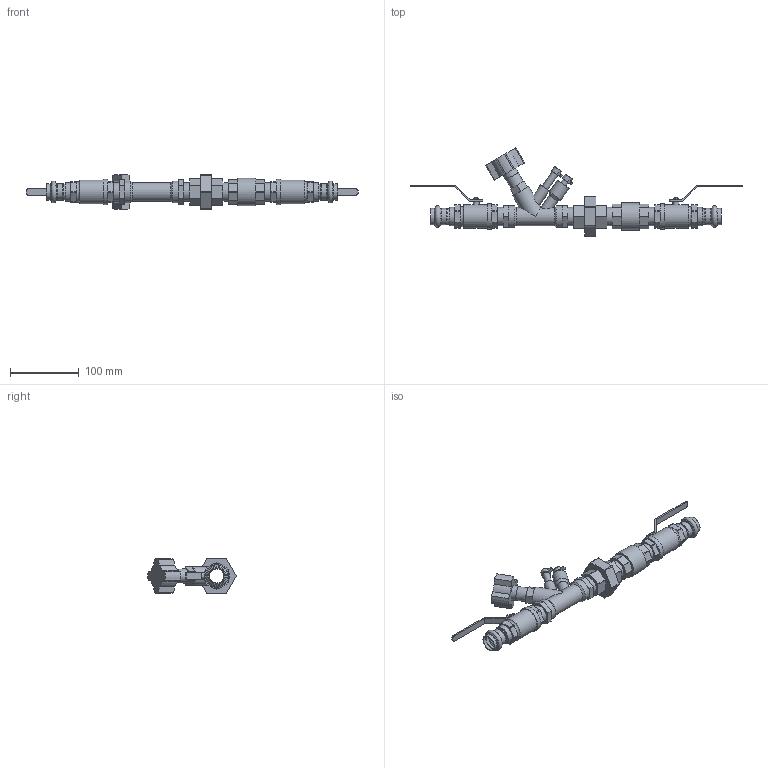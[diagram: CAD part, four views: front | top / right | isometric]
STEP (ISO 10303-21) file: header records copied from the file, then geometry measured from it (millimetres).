
FILE_DESCRIPTION(/* description */ ('VIC DOMESTIC WATER KIT FOR HYDRONIC BALANCING SERIES 7W9 (CPF)','CAx-IF Rec.Pracs.---Representation and Presentation of Product Manufacturing Information (PMI)---4.0---2014-10-13'),/* implementation_level */ '2;1');
FILE_NAME(/* name */ 'C:\Users\Vjadhav\AppData\Roaming\Autodesk\ApplicationPlugins\Victaulic.Temp\A633\Victaulic_Domestic Water Kit for Hydronic Balancing_Series 7W9 (CPF)_PRS_0.75 (20).stp',/* time_stamp */ '2021-08-10T10:25:50+06:00',/* author */ ('Vjadhav'),/* organization */ ('Victaulic'),/* preprocessor_version */ 'ST-DEVELOPER v17.2',/* originating_system */ 'Autodesk Inventor 2019',/* authorisation */ '');
FILE_SCHEMA (('AP242_MANAGED_MODEL_BASED_3D_ENGINEERING_MIM_LF { 1 0 10303 442 1 1 4 }'));
Length unit declared in the file: inch
Products named in the file (7): 7W9_PRS-0.75; Union_BR_386-0.75; Check_Valve_4133-0.75; Nipple_BR_386_Prs-0.75; 722L_Prs-0.75; P596-0.75x0.75; 790-0.75
Assembly tree (11 placements, depth 2):
  7W9_PRS-0.75
    Union_BR_386-0.75
    Nipple_BR_386_Prs-0.75  x4
    722L_Prs-0.75  x2
    P596-0.75x0.75  x2
    Check_Valve_4133-0.75
    790-0.75
Bounding box: 482.6 x 128.58 x 50.62 mm (x, y, z)
Volume: 288083.4 mm3; surface area: 131254.7 mm2
Topology: 11 solids, 11 shells, 393 faces, 1067 edges, 739 vertices
Faces by surface type: plane 245, cylinder 115, torus 22, cone 11
Full cylindrical faces by diameter (mm): 4.572 x2, 8.763 x2, 9.652 x2, 12.7 x2, 15.24 x2, 20.32 x1, 20.599 x4, 20.828 x1, 20.879 x4, 20.93 x7, 21.59 x1, 22.225 x6, 23.851 x4, 26.67 x18, 31.42 x2, 34.052 x2, 36.83 x2, 39.751 x1
Entity records: 9774 total; most frequent: CARTESIAN_POINT 1763, DIRECTION 1643, ORIENTED_EDGE 1506, EDGE_CURVE 753, AXIS2_PLACEMENT_3D 607, VERTEX_POINT 516, LINE 429, VECTOR 429
